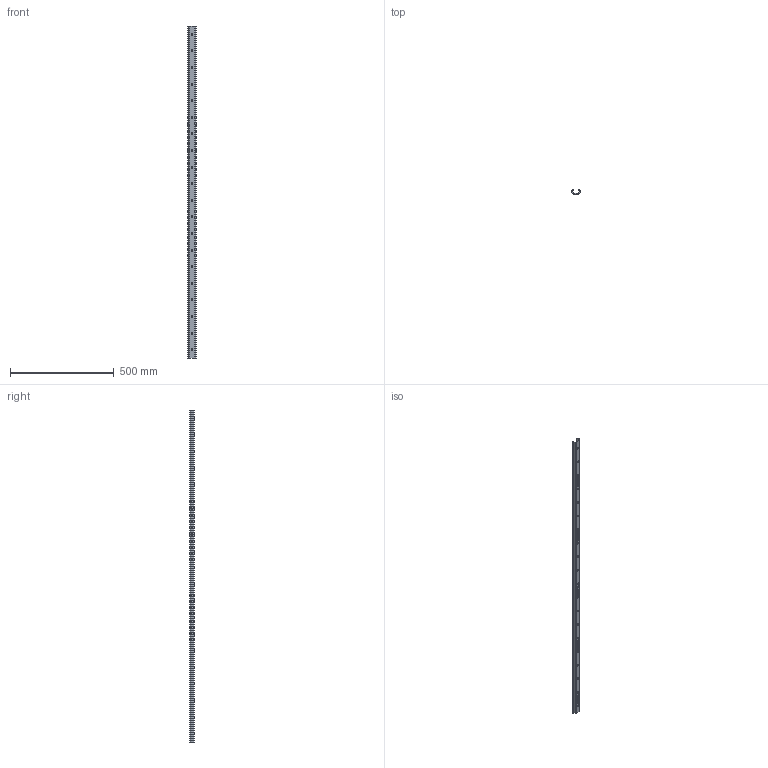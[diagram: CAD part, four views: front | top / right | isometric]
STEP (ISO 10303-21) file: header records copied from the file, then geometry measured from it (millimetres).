
FILE_DESCRIPTION(('STEP AP214'),'1');
FILE_NAME('rail_tex40-1600.stp','2019-03-08T08:33:22',('TraceParts'),('TraceParts S.A.'),'Spatial InterOp 3D',' ',' ');
FILE_SCHEMA(('automotive_design'));
Length unit declared in the file: millimetre
Products named in the file (1): rail_tex40-1600
Bounding box: 39.53 x 21 x 1600 mm (x, y, z)
Volume: 312833.3 mm3; surface area: 220508.9 mm2
Topology: 1 solids, 1 shells, 351 faces, 912 edges, 608 vertices
Faces by surface type: plane 244, bspline 55, cylinder 52
Entity records: 21973 total; most frequent: CARTESIAN_POINT 10707, ORIENTED_EDGE 1824, DIRECTION 1500, EDGE_CURVE 912, LINE 698, VECTOR 698, VERTEX_POINT 608, EDGE_LOOP 436
